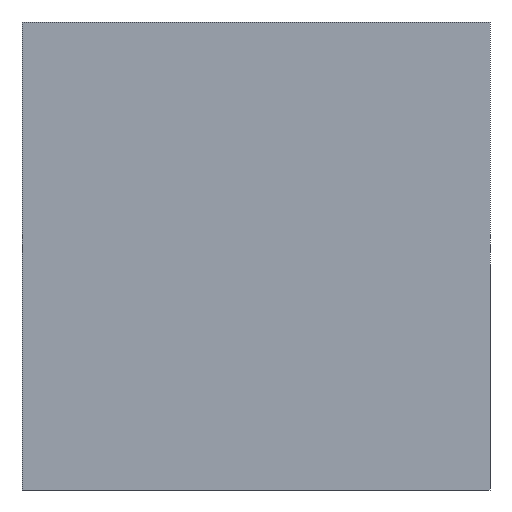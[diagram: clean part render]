
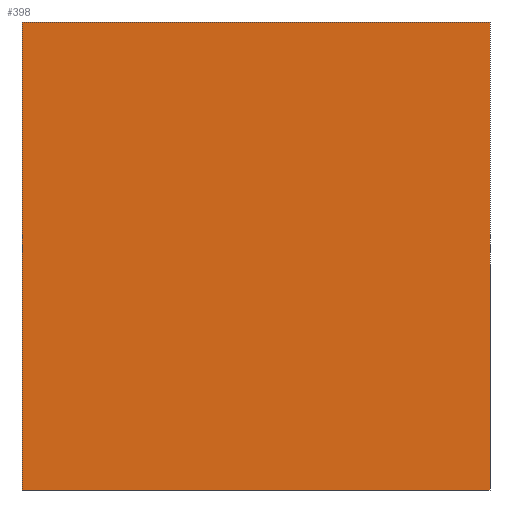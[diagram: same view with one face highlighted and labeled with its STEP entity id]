
A CAD part, front view. The second image highlights one B-rep face of the part: STEP entity #398.
In plain terms, the highlighted planar face has unit normal (0, -1, 0).
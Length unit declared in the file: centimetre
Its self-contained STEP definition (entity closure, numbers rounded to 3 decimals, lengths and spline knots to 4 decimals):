
#1 = CARTESIAN_POINT ( 'NONE',  ( 0., 0., 1000. ) ) ;
#4 = FACE_OUTER_BOUND ( 'NONE', #66, .T. ) ;
#5 = VERTEX_POINT ( 'NONE', #542 ) ;
#8 = DIRECTION ( 'NONE',  ( 0., 0., -1. ) ) ;
#22 = VERTEX_POINT ( 'NONE', #466 ) ;
#29 = VECTOR ( 'NONE', #8, 100. ) ;
#66 = EDGE_LOOP ( 'NONE', ( #508, #615, #593, #301 ) ) ;
#100 = LINE ( 'NONE', #389, #410 ) ;
#112 = CARTESIAN_POINT ( 'NONE',  ( 0., 0., 0. ) ) ;
#121 = LINE ( 'NONE', #125, #29 ) ;
#125 = CARTESIAN_POINT ( 'NONE',  ( 0., 0., 1000. ) ) ;
#144 = LINE ( 'NONE', #340, #449 ) ;
#202 = PLANE ( 'NONE',  #577 ) ;
#232 = EDGE_CURVE ( 'NONE', #510, #5, #482, .T. ) ;
#235 = DIRECTION ( 'NONE',  ( 0., 0., -1. ) ) ;
#243 = CARTESIAN_POINT ( 'NONE',  ( 0., 0., 1000. ) ) ;
#249 = EDGE_CURVE ( 'NONE', #362, #22, #100, .T. ) ;
#284 = EDGE_CURVE ( 'NONE', #5, #22, #144, .T. ) ;
#292 = VECTOR ( 'NONE', #387, 100. ) ;
#301 = ORIENTED_EDGE ( 'NONE', *, *, #359, .T. ) ;
#340 = CARTESIAN_POINT ( 'NONE',  ( 1000., 0., 1000. ) ) ;
#359 = EDGE_CURVE ( 'NONE', #510, #362, #121, .T. ) ;
#362 = VERTEX_POINT ( 'NONE', #112 ) ;
#387 = DIRECTION ( 'NONE',  ( 1., 0., 0. ) ) ;
#389 = CARTESIAN_POINT ( 'NONE',  ( 0., 0., 0. ) ) ;
#398 = ADVANCED_FACE ( 'NONE', ( #4 ), #202, .F. ) ;
#400 = CARTESIAN_POINT ( 'NONE',  ( 0., 0., 1000. ) ) ;
#410 = VECTOR ( 'NONE', #440, 100. ) ;
#440 = DIRECTION ( 'NONE',  ( 1., 0., 0. ) ) ;
#449 = VECTOR ( 'NONE', #235, 100. ) ;
#466 = CARTESIAN_POINT ( 'NONE',  ( 1000., 0., 0. ) ) ;
#482 = LINE ( 'NONE', #243, #292 ) ;
#508 = ORIENTED_EDGE ( 'NONE', *, *, #249, .T. ) ;
#510 = VERTEX_POINT ( 'NONE', #1 ) ;
#541 = DIRECTION ( 'NONE',  ( 0., 0., 1. ) ) ;
#542 = CARTESIAN_POINT ( 'NONE',  ( 1000., 0., 1000. ) ) ;
#577 = AXIS2_PLACEMENT_3D ( 'NONE', #400, #592, #541 ) ;
#592 = DIRECTION ( 'NONE',  ( 0., 1., 0. ) ) ;
#593 = ORIENTED_EDGE ( 'NONE', *, *, #232, .F. ) ;
#615 = ORIENTED_EDGE ( 'NONE', *, *, #284, .F. ) ;
